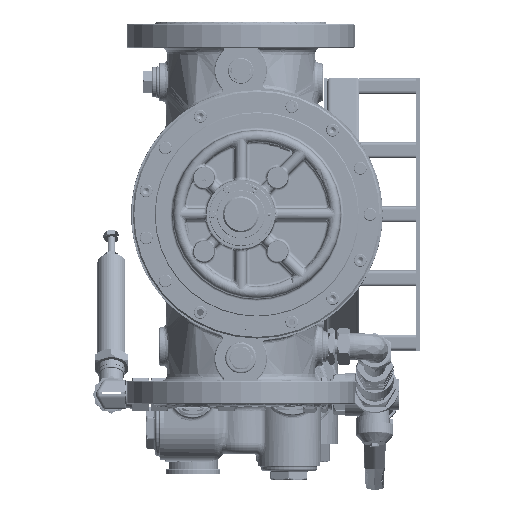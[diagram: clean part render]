
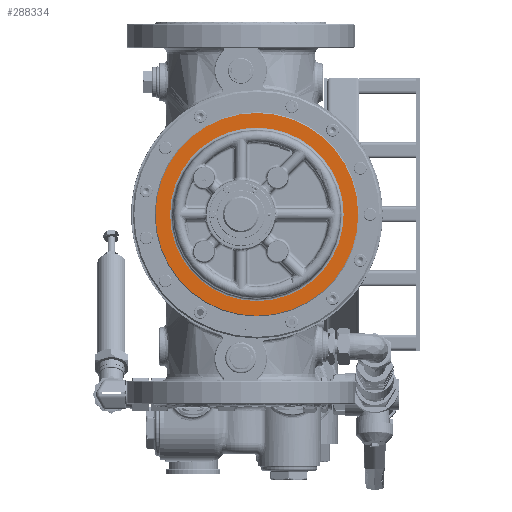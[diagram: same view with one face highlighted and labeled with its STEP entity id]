
A CAD part, left-side view. The second image highlights one B-rep face of the part: STEP entity #288334.
In plain terms, the highlighted planar face has unit normal (-1, 0, 0).
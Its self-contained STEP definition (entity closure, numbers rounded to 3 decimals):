
#643 = DIRECTION ( 'NONE',  ( 0., 0., -1. ) ) ;
#2936 = PLANE ( 'NONE',  #255378 ) ;
#4411 = CIRCLE ( 'NONE', #175830, 126.5 ) ;
#16065 = ORIENTED_EDGE ( 'NONE', *, *, #101129, .T. ) ;
#29728 = EDGE_LOOP ( 'NONE', ( #16065, #85047 ) ) ;
#31211 = CIRCLE ( 'NONE', #180283, 108.27 ) ;
#32278 = CARTESIAN_POINT ( 'NONE',  ( -122., 0., 108.27 ) ) ;
#32818 = FACE_OUTER_BOUND ( 'NONE', #29728, .T. ) ;
#43080 = EDGE_CURVE ( 'NONE', #253993, #177587, #142777, .T. ) ;
#44496 = AXIS2_PLACEMENT_3D ( 'NONE', #65658, #245395, #91568 ) ;
#65658 = CARTESIAN_POINT ( 'NONE',  ( -122., 0., 0. ) ) ;
#73121 = CARTESIAN_POINT ( 'NONE',  ( -122., 0., 126.5 ) ) ;
#77821 = CARTESIAN_POINT ( 'NONE',  ( -122., 0., 0. ) ) ;
#85047 = ORIENTED_EDGE ( 'NONE', *, *, #43080, .T. ) ;
#91568 = DIRECTION ( 'NONE',  ( 0., 0., -1. ) ) ;
#92804 = AXIS2_PLACEMENT_3D ( 'NONE', #139651, #319330, #165432 ) ;
#93209 = FACE_BOUND ( 'NONE', #263628, .T. ) ;
#101129 = EDGE_CURVE ( 'NONE', #177587, #253993, #4411, .T. ) ;
#103686 = DIRECTION ( 'NONE',  ( 0., 0., -1. ) ) ;
#105215 = ORIENTED_EDGE ( 'NONE', *, *, #210864, .T. ) ;
#105702 = VERTEX_POINT ( 'NONE', #188916 ) ;
#106475 = CARTESIAN_POINT ( 'NONE',  ( -122., 154.161, 0. ) ) ;
#132272 = DIRECTION ( 'NONE',  ( 0., 0., -1. ) ) ;
#139651 = CARTESIAN_POINT ( 'NONE',  ( -122., 0., 0. ) ) ;
#142777 = CIRCLE ( 'NONE', #44496, 126.5 ) ;
#154729 = DIRECTION ( 'NONE',  ( -1., 0., 0. ) ) ;
#165432 = DIRECTION ( 'NONE',  ( 0., 0., -1. ) ) ;
#175830 = AXIS2_PLACEMENT_3D ( 'NONE', #308629, #154729, #643 ) ;
#177587 = VERTEX_POINT ( 'NONE', #329683 ) ;
#180283 = AXIS2_PLACEMENT_3D ( 'NONE', #77821, #257461, #103686 ) ;
#188916 = CARTESIAN_POINT ( 'NONE',  ( -122., 0., -108.27 ) ) ;
#204187 = ORIENTED_EDGE ( 'NONE', *, *, #305198, .T. ) ;
#210864 = EDGE_CURVE ( 'NONE', #105702, #298730, #31211, .T. ) ;
#220375 = CIRCLE ( 'NONE', #92804, 108.27 ) ;
#245395 = DIRECTION ( 'NONE',  ( -1., 0., 0. ) ) ;
#253993 = VERTEX_POINT ( 'NONE', #73121 ) ;
#255378 = AXIS2_PLACEMENT_3D ( 'NONE', #106475, #286197, #132272 ) ;
#257461 = DIRECTION ( 'NONE',  ( 1., 0., 0. ) ) ;
#263628 = EDGE_LOOP ( 'NONE', ( #105215, #204187 ) ) ;
#286197 = DIRECTION ( 'NONE',  ( 1., 0., 0. ) ) ;
#288334 = ADVANCED_FACE ( 'NONE', ( #32818, #93209 ), #2936, .F. ) ;
#298730 = VERTEX_POINT ( 'NONE', #32278 ) ;
#305198 = EDGE_CURVE ( 'NONE', #298730, #105702, #220375, .T. ) ;
#308629 = CARTESIAN_POINT ( 'NONE',  ( -122., 0., 0. ) ) ;
#319330 = DIRECTION ( 'NONE',  ( 1., 0., 0. ) ) ;
#329683 = CARTESIAN_POINT ( 'NONE',  ( -122., 0., -126.5 ) ) ;
